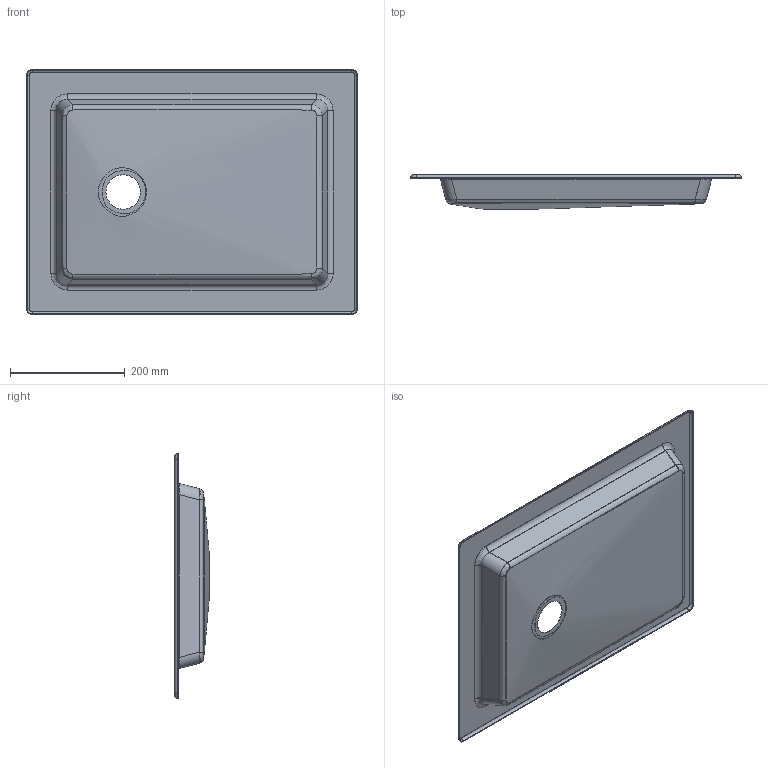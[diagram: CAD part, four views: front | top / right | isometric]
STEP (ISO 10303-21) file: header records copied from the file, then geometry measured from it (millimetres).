
FILE_DESCRIPTION(/* description */ (''),/* implementation_level */ '2;1');
FILE_NAME(/* name */ 'C:\DesignOffice\Designs\SheetmetalDesign\Sink_200S.stp',/* time_stamp */ '2022-07-29T17:36:50+02:00',/* author */ ('ExpertBooks'),/* organization */ (''),/* preprocessor_version */ 'ST-DEVELOPER v19.2',/* originating_system */ 'Autodesk Inventor 2023',/* authorisation */ '');
FILE_SCHEMA (('AUTOMOTIVE_DESIGN { 1 0 10303 214 3 1 1 }'));
Length unit declared in the file: millimetre
Products named in the file (1): Sheet Metal Sink
Bounding box: 576.79 x 60 x 426.79 mm (x, y, z)
Volume: 533401.2 mm3; surface area: 604269.9 mm2
Topology: 1 solids, 1 shells, 90 faces, 239 edges, 152 vertices
Faces by surface type: cylinder 33, bspline 32, plane 21, torus 4
Full cylindrical faces by diameter (mm): 60 x1
Entity records: 7244 total; most frequent: CARTESIAN_POINT 5166, ORIENTED_EDGE 474, DIRECTION 352, EDGE_CURVE 237, VERTEX_POINT 152, AXIS2_PLACEMENT_3D 139, EDGE_LOOP 95, FACE_OUTER_BOUND 90
